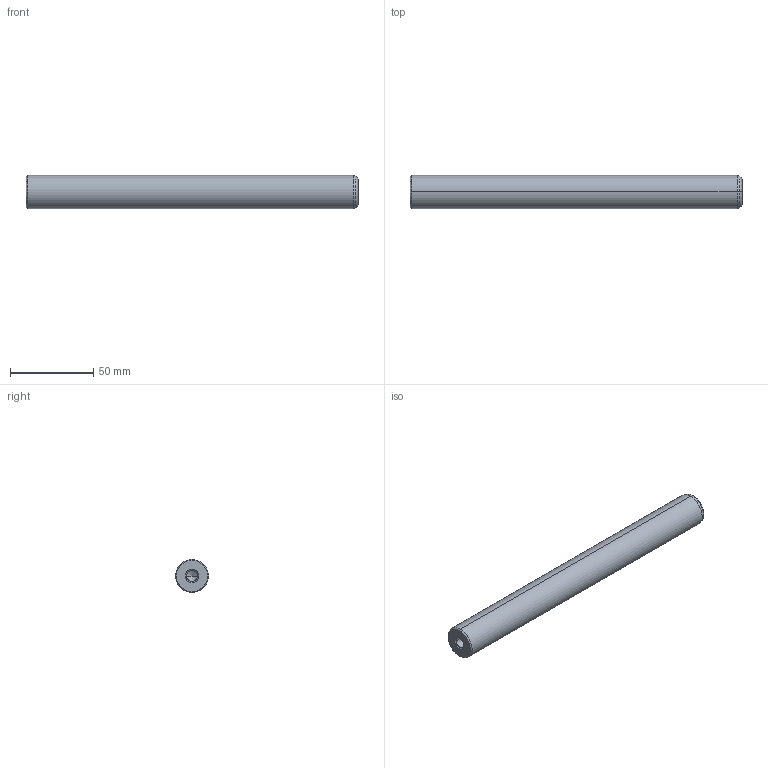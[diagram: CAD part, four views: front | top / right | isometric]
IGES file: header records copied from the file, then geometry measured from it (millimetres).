
Start section: START RECORD GO HERE.
Global section: file name: 720-20x200.igs; native system: DASSAULT SYSTEMES CATIA V5 R20 - www.3ds.com; preprocessor: CATIA Version 5 Release 20 ; author: Utente; organization: NB04-ASUS; date: 20210101.135806; units: millimetre
Bounding box: 200 x 20 x 20 mm (x, y, z)
Surface area: 14087.9 mm2 (no closed solid volume)
Topology: 0 solids, 0 shells, 22 faces, 108 edges, 104 vertices
Faces by surface type: revolution 20, plane 2
